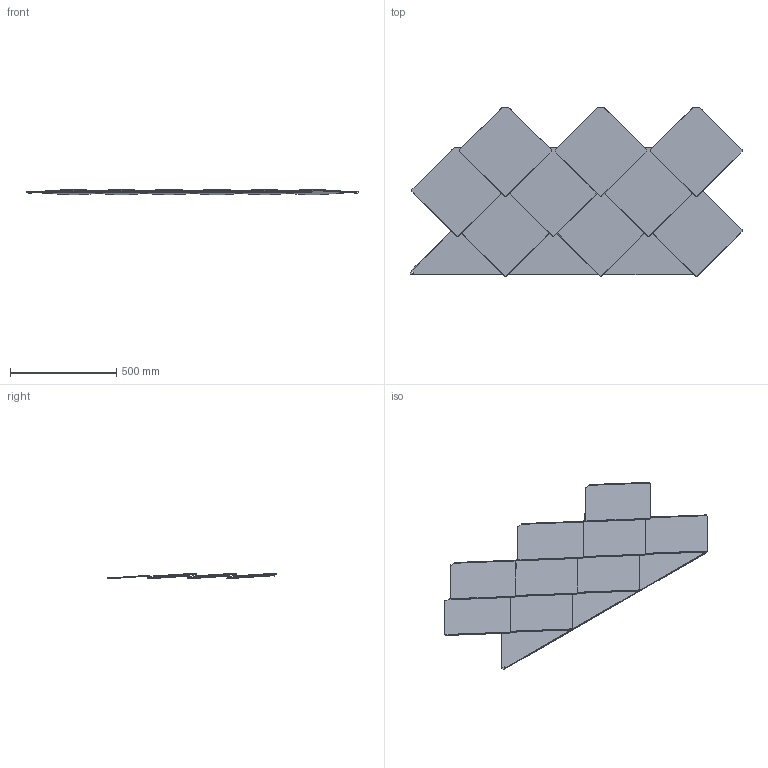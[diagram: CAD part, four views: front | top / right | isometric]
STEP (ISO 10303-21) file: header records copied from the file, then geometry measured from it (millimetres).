
FILE_DESCRIPTION(/* description */ (''),/* implementation_level */ '2;1');
FILE_NAME(/* name */ 'PREFA_~1',/* time_stamp */ '2020-07-21T16:14:47+02:00',/* author */ (''),/* organization */ (''),/* preprocessor_version */ 'ST-DEVELOPER v15',/* originating_system */ '',/* authorisation */ '');
FILE_SCHEMA (('AUTOMOTIVE_DESIGN'));
Length unit declared in the file: millimetre
Products named in the file (1): Document
Bounding box: 1565.67 x 798.89 x 26.86 mm (x, y, z)
Surface area: 1100422.1 mm2 (no closed solid volume)
Topology: 0 solids, 165 shells, 165 faces, 1051 edges, 1061 vertices
Faces by surface type: bspline 108, plane 57
Entity records: 11300 total; most frequent: CARTESIAN_POINT 6098, ORIENTED_EDGE 1059, EDGE_CURVE 1059, VERTEX_POINT 1050, B_SPLINE_CURVE_WITH_KNOTS 835, PRESENTATION_LAYER_ASSIGNMENT 175, SHELL_BASED_SURFACE_MODEL 165, OPEN_SHELL 165
